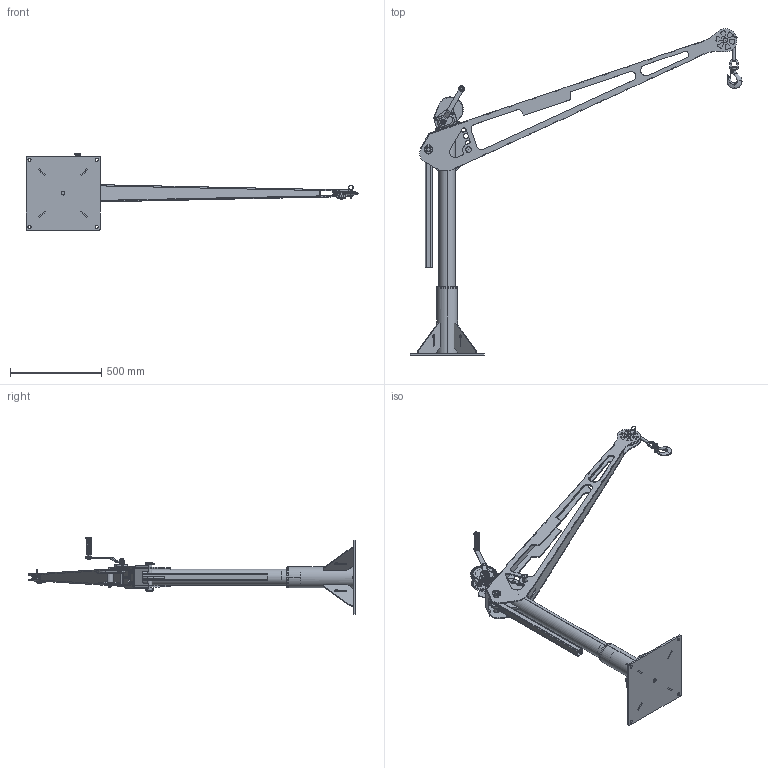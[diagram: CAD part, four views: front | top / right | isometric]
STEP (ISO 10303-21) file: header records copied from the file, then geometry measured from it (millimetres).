
FILE_DESCRIPTION (( 'STEP AP214' ), '1' );
FILE_NAME ('OZXR1000DAV.STEP', '2023-02-02T14:42:10', ( '' ), ( '' ), 'SwSTEP 2.0', 'SolidWorks 2021', '' );
FILE_SCHEMA (( 'AUTOMOTIVE_DESIGN' ));
Length unit declared in the file: inch
Products named in the file (63): ______.STEP; 93560A180_Steel Hex Weld Nut_93560A180; DC10PC7240; ______-1.STEP; M6__________.STEP; SD2014; OZ220038; ______-6.STEP; ______-2.STEP; DC10PC7210; OZ110021; ______-13.STEP; OZPED1-TP; OZ220035; M6____-12.STEP; ______-9.STEP; DC10PC5000B; DC10PC5200B; ________-16.STEP; M10______________.STEP; __________.STEP; ________.STEP; ____-3.STEP; 3 20 ______.STEP; ____12.STEP; DC10PC7100; ____-7.STEP; ____-14.STEP; ______-0.STEP; OZXR1000DAV; ______-11.STEP; M6____.STEP; OZ110022; OZ220036_Left; OZ220037; ______-15.STEP; ____1.STEP; QM4322S-10_35165T65; M12____.STEP; DC10PC7000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
Assembly tree (83 placements, depth 4):
  OZXR1000DAV
    OZ110021
      OZ210009
      OZ220034
      OZ220035
    OZ110022
      OZ110023
        OZ220038
        93560A160_Steel Hex Weld Nut_93560A160  x3
        93560A180_Steel Hex Weld Nut_93560A180  x3
      OZ220036_Left  x2
      OZ220037
    DC10PC5000B
      DC10PC5200B
      DC10PC5100B
    SD7012
    HANG-2  x3
    DRI-14
    SD2014  x2
    1000bls.STEP
      ____.STEP
      ______.STEP
      ______-0.STEP
      3 20 ______.STEP
      M12____.STEP
      ______-1.STEP
      ______-2.STEP
      ____-3.STEP
      ____-4.STEP
      ____1.STEP
      ____-5.STEP
      ______-6.STEP  x2
      ____12.STEP
      ____-7.STEP
      ______-8.STEP
      ______-9.STEP
      ________.STEP
      M10______________.STEP
      ________-10.STEP
      ______-11.STEP
      10____.STEP
      M10________.STEP
      __________.STEP
      M6____.STEP
      M6____-12.STEP  x3
      ______-13.STEP
      6____.STEP  x5
      M6________.STEP  x2
      M6__________.STEP  x2
      ____-14.STEP
      ______-15.STEP
      18____.STEP
      12____.STEP  x2
      ________-16.STEP
    OZ210011_Default<As Machined>
    QM4322S-10_35165T65
    OZPED1-TP
      DC10PC7000
        DC10PC7210
        DC10PC7220
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Bounding box: 1819.54 x 1789.85 x 420.45 mm (x, y, z)
Volume: 9053767.5 mm3; surface area: 3242960.6 mm2
Topology: 82 solids, 82 shells, 3077 faces, 8270 edges, 5378 vertices
Faces by surface type: cylinder 1305, plane 1174, bspline 234, cone 178, torus 165, sphere 21
Entity records: 102967 total; most frequent: CARTESIAN_POINT 40085, ORIENTED_EDGE 12836, DIRECTION 12424, EDGE_CURVE 6418, AXIS2_PLACEMENT_3D 4626, VERTEX_POINT 4179, LINE 3172, VECTOR 3172
